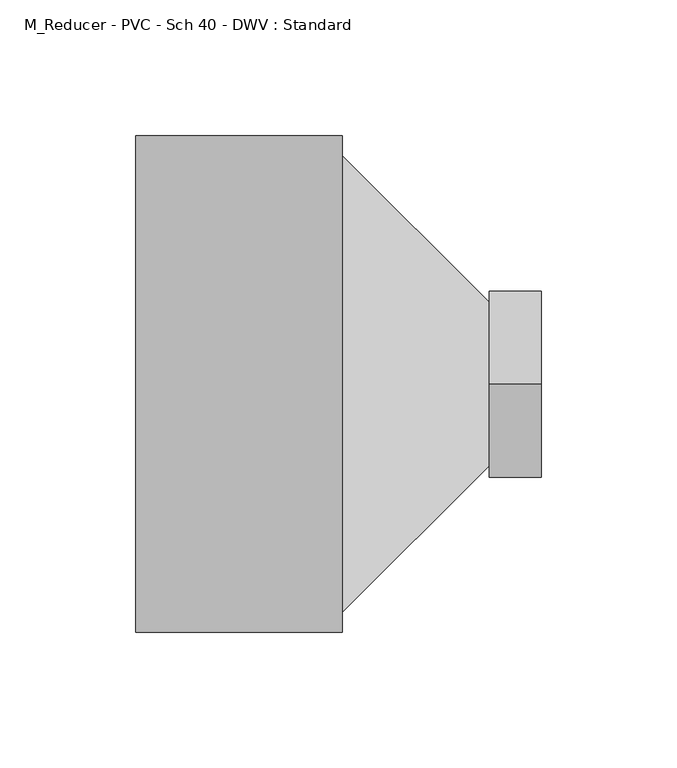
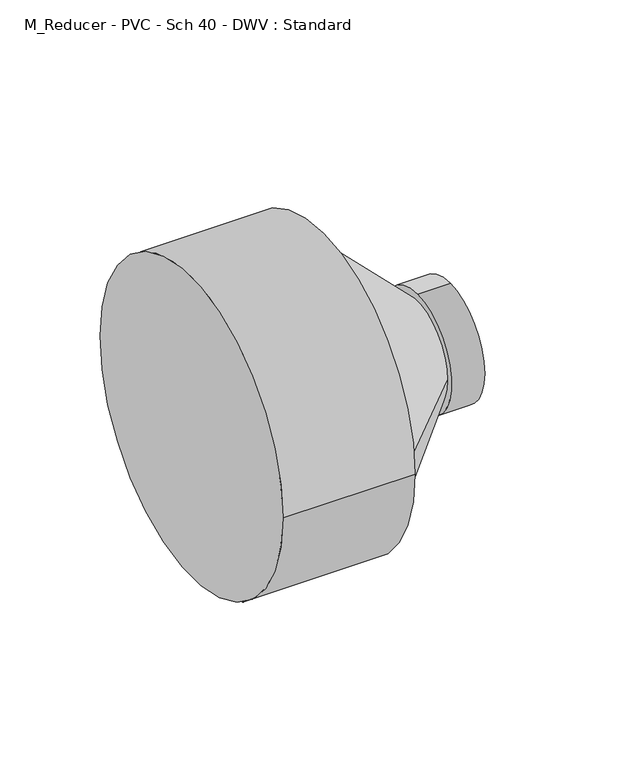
"""IFC4 building model written with IfcOpenShell, lengths in millimetres: pipe fitting geometry, M_Reducer - PVC - Sch 40 - DWV : Standard."""

from ifc_helpers import new_model, si_unit, frame, origin, place, context, project, spatial, circle_curve, source, transform, mapped, element, save
from ifc_brep_helpers import plane_surface, cylinder_surface, spline_surface, advanced_brep


def m_reducer_pvc_sch_40_dwv_standard_4bae48e9(model_context):
    return source(origin(), model_context, "Body", "AdvancedBrep", [
        advanced_brep(
        [(0.0, -91.5543, 0.0), (0.0, 91.5543, 0.0), (76.2, -91.5543, 0.0), (76.2, 91.5543, 0.0), (76.2, 84.1375, 0.0), (76.2, -84.1375, 0.0), (130.4460938, 30.1610476, 1.0154627), (130.4460938, -30.1639524, 1.0154627), (130.4460938, -0.0014524, 35.3308627), (130.4460938, -0.0014524, -33.2999373), (149.4960938, -0.0014524, 35.3308627), (149.4960938, -0.0014524, -33.2999373)],
        [
            (0, 1, circle_curve(frame((0.0, 0.0, 0.0), z_axis=(-1.0, 0.0, 0.0), x_axis=(0.0, 1.0, 0.0)), 91.5543)),
            (1, 0, circle_curve(frame((0.0, 0.0, 0.0), z_axis=(-1.0, 0.0, 0.0), x_axis=(0.0, 1.0, 0.0)), 91.5543)),
            (2, 3, circle_curve(frame((76.2, 0.0, 0.0), z_axis=(1.0, 0.0, 0.0), x_axis=(0.0, 1.0, 0.0)), 91.5543)),
            (3, 2, circle_curve(frame((76.2, 0.0, 0.0), z_axis=(1.0, 0.0, 0.0), x_axis=(0.0, 1.0, 0.0)), 91.5543)),
            (4, 5, circle_curve(frame((76.2, 0.0, 0.0), z_axis=(-1.0, 0.0, 0.0), x_axis=(0.0, 1.0, 0.0)), 84.1375)),
            (5, 4, circle_curve(frame((76.2, 0.0, 0.0), z_axis=(-1.0, 0.0, 0.0), x_axis=(0.0, 1.0, 0.0)), 84.1375)),
            (0, 2),
            (3, 1),
            (4, 6),
            (6, 7, circle_curve(frame((130.4460938, -0.0014524, 1.0154627), z_axis=(-1.0, 0.0, 0.0), x_axis=(0.0, 1.0, 0.0)), 30.1625)),
            (7, 5),
            (7, 6, circle_curve(frame((130.4460938, -0.0014524, 1.0154627), z_axis=(-1.0, 0.0, 0.0), x_axis=(0.0, 1.0, 0.0)), 30.1625)),
            (8, 9, circle_curve(frame((130.4460938, -0.0014524, 1.0154627), z_axis=(-1.0, 0.0, 0.0), x_axis=(0.0, 0.0, -1.0)), 34.3154)),
            (9, 8, circle_curve(frame((130.4460938, -0.0014524, 1.0154627), z_axis=(-1.0, 0.0, 0.0), x_axis=(0.0, 0.0, -1.0)), 34.3154)),
            (10, 11, circle_curve(frame((149.4960938, -0.0014524, 1.0154627), z_axis=(1.0, 0.0, 0.0), x_axis=(0.0, 0.0, -1.0)), 34.3154)),
            (11, 10, circle_curve(frame((149.4960938, -0.0014524, 1.0154627), z_axis=(1.0, 0.0, 0.0), x_axis=(0.0, 0.0, -1.0)), 34.3154)),
            (8, 10),
            (11, 9),
        ],
        [
            plane_surface(frame((0.0, 0.0, 0.0), z_axis=(-1.0, 0.0, 0.0), x_axis=(0.0, 0.0, 1.0))),
            plane_surface(frame((76.2, 0.0, 0.0), z_axis=(1.0, 0.0, 0.0), x_axis=(0.0, 0.0, 1.0))),
            cylinder_surface(frame((0.0, 0.0, 0.0), z_axis=(-1.0, 0.0, 0.0), x_axis=(0.0, 1.0, 0.0)), 91.5543),
            spline_surface(2, 1, [[(76.2, -84.1375, 0.0), (130.4460938, -30.1639524, 1.0154627)], [(76.2, -84.1375, -84.1375), (130.4460938, -30.1639524, -29.147037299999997)], [(76.2, 0.0, -84.1375), (130.4460938, -0.0014524, -29.147037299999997)], [(76.2, 84.1375, -84.1375), (130.4460938, 30.161047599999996, -29.147037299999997)], [(76.2, 84.1375, 0.0), (130.4460938, 30.1610476, 1.0154627)]], [3, 2, 3], [2, 2], [0.0, 1.0, 2.0], [0.0, 1.0], weights=[[1.0, 1.0], [0.7071067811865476, 0.7071067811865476], [1.0, 1.0], [0.7071067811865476, 0.7071067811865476], [1.0, 1.0]]),
            spline_surface(2, 1, [[(76.2, 84.1375, 0.0), (130.4460938, 30.1610476, 1.0154627)], [(76.2, 84.1375, 84.1375), (130.4460938, 30.1610476, 31.177962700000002)], [(76.2, 0.0, 84.1375), (130.4460938, -0.0014524, 31.177962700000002)], [(76.2, -84.1375, 84.1375), (130.4460938, -30.163952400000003, 31.177962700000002)], [(76.2, -84.1375, 0.0), (130.4460938, -30.1639524, 1.0154627)]], [3, 2, 3], [2, 2], [0.0, 1.0, 2.0], [0.0, 1.0], weights=[[1.0, 1.0], [0.7071067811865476, 0.7071067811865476], [1.0, 1.0], [0.7071067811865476, 0.7071067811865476], [1.0, 1.0]]),
            plane_surface(frame((130.4460938, -0.0014524, 1.0154627), z_axis=(-1.0, 0.0, 0.0), x_axis=(0.0, 1.0, 0.0))),
            plane_surface(frame((149.4960938, -0.0014524, 1.0154627), z_axis=(1.0, 0.0, 0.0), x_axis=(0.0, 1.0, 0.0))),
            cylinder_surface(frame((130.4460938, -0.0014524, 1.0154627), z_axis=(-1.0, 0.0, 0.0), x_axis=(0.0, 0.0, -1.0)), 34.3154),
        ],
        [
            (0, [[1, 2]]),
            (1, [[3, 4], [5, 6]]),
            (2, [[-1, 7, -4, 8]]),
            (2, [[-2, -8, -3, -7]]),
            (3, [[9, 10, 11, -5]]),
            (4, [[-9, -6, -11, 12]]),
            (5, [[13, 14], [-10, -12]]),
            (6, [[15, 16]]),
            (7, [[-13, 17, -16, 18]]),
            (7, [[-14, -18, -15, -17]]),
        ],
    ),
    ])


if __name__ == "__main__":
    model = new_model("IFC4")
    model_context = context("Model", 3, world=origin())
    ifc_project = project(units=[si_unit("LENGTHUNIT", "METRE", prefix="MILLI")], contexts=[model_context])
    site = spatial("IfcSite", under=ifc_project)
    building = spatial("IfcBuilding", under=site)
    placement = place(None, origin())
    m_reducer_pvc_sch_40_dwv_standard_shape = m_reducer_pvc_sch_40_dwv_standard_4bae48e9(model_context)
    element("IfcPipeFitting", 1, ObjectType="M_Reducer - PVC - Sch 40 - DWV : Standard", at=placement, inside=building, context=model_context, shape_type="MappedRepresentation", body=[
        mapped(m_reducer_pvc_sch_40_dwv_standard_shape, transform((0.0, 0.0, 0.0), x_axis=(1.0, 0.0, 0.0), y_axis=(0.0, 1.0, 0.0), z_axis=(0.0, 0.0, 1.0))),
    ])
    save(model, "model.ifc")
